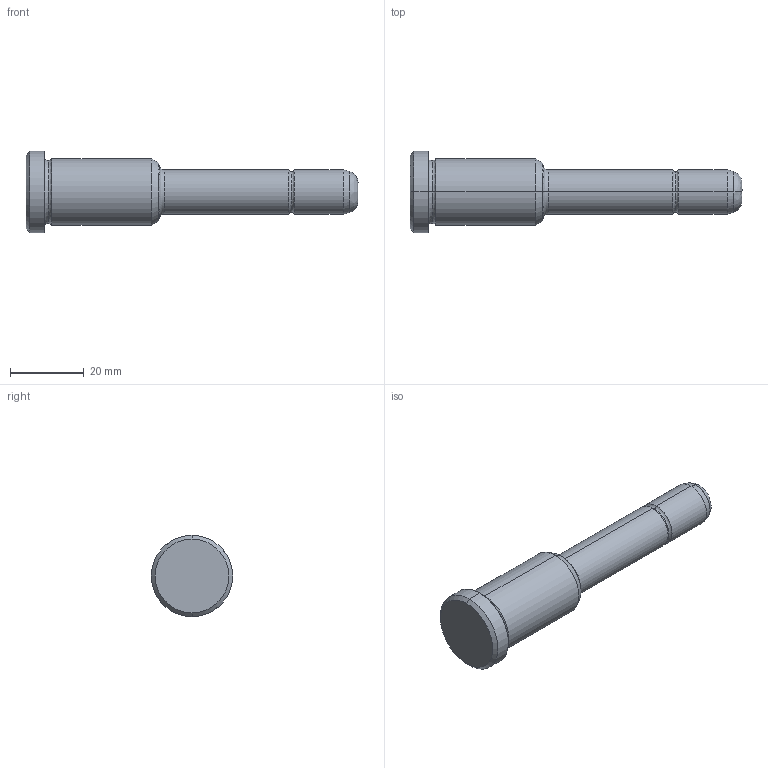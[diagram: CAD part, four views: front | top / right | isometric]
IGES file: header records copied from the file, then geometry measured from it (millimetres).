
Start section: START RECORD GO HERE.
Global section: file name: 351-12X36X90.igs; native system: DASSAULT SYSTEMES CATIA V5 R20 - www.3ds.com; preprocessor: CATIA Version 5 Release 20 ; author: Utente; organization: NB04-ASUS; date: 20210817.142851; units: millimetre
Bounding box: 90 x 22 x 22 mm (x, y, z)
Surface area: 4734.5 mm2 (no closed solid volume)
Topology: 0 solids, 0 shells, 30 faces, 172 edges, 172 vertices
Faces by surface type: revolution 24, plane 4, bspline 2
